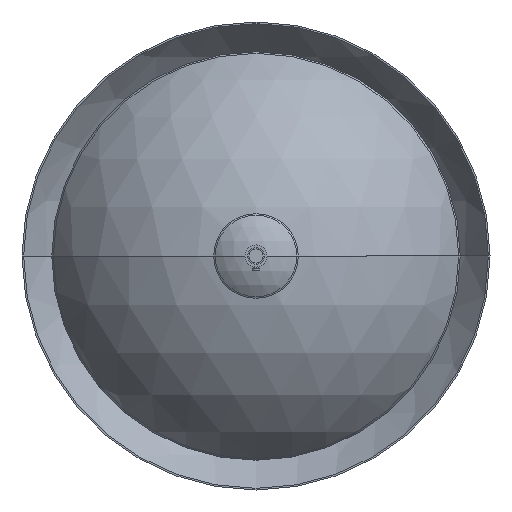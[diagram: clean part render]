
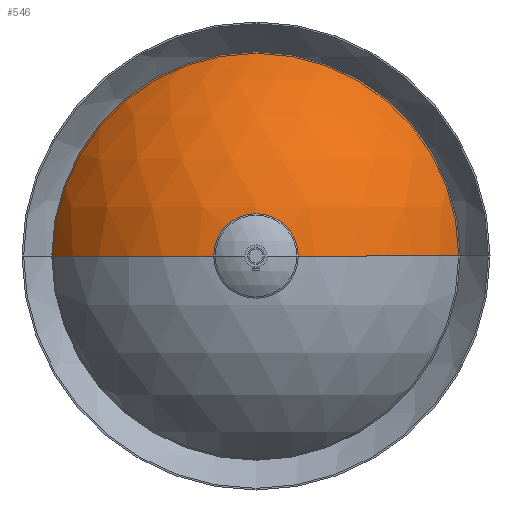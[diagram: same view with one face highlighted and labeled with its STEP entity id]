
A CAD part, front view. The second image highlights one B-rep face of the part: STEP entity #546.
In plain terms, the highlighted spherical face has radius 199.377 mm.
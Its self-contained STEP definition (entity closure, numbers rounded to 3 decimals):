
#67 = ORIENTED_EDGE ( 'NONE', *, *, #1074, .T. ) ;
#112 = CARTESIAN_POINT ( 'NONE',  ( 174.549, -18.069, 0. ) ) ;
#137 = DIRECTION ( 'NONE',  ( 0., 1., 0. ) ) ;
#423 = VERTEX_POINT ( 'NONE', #3428 ) ;
#532 = EDGE_CURVE ( 'NONE', #2109, #3763, #1422, .T. ) ;
#546 = ADVANCED_FACE ( 'NONE', ( #4645 ), #4346, .T. ) ;
#606 = AXIS2_PLACEMENT_3D ( 'NONE', #4404, #4882, #3675 ) ;
#625 = DIRECTION ( 'NONE',  ( 0., 0., 1. ) ) ;
#691 = CARTESIAN_POINT ( 'NONE',  ( 17.89, -120.289, 0. ) ) ;
#734 = AXIS2_PLACEMENT_3D ( 'NONE', #1405, #625, #3561 ) ;
#847 = ORIENTED_EDGE ( 'NONE', *, *, #3391, .F. ) ;
#875 = VERTEX_POINT ( 'NONE', #3006 ) ;
#1074 = EDGE_CURVE ( 'NONE', #3009, #3763, #4242, .T. ) ;
#1237 = ORIENTED_EDGE ( 'NONE', *, *, #532, .F. ) ;
#1281 = CIRCLE ( 'NONE', #3973, 17.89 ) ;
#1287 = CIRCLE ( 'NONE', #606, 199.377 ) ;
#1314 = DIRECTION ( 'NONE',  ( 0., 1., 0. ) ) ;
#1405 = CARTESIAN_POINT ( 'NONE',  ( 0., 78.284, 0. ) ) ;
#1422 = CIRCLE ( 'NONE', #2652, 174.549 ) ;
#1447 = CARTESIAN_POINT ( 'NONE',  ( 0., 78.284, 0. ) ) ;
#1640 = DIRECTION ( 'NONE',  ( 0., 1., 0. ) ) ;
#1729 = EDGE_CURVE ( 'NONE', #423, #875, #4926, .T. ) ;
#1749 = CARTESIAN_POINT ( 'NONE',  ( 0., -18.069, 0. ) ) ;
#1892 = AXIS2_PLACEMENT_3D ( 'NONE', #1447, #3522, #2715 ) ;
#2109 = VERTEX_POINT ( 'NONE', #3587 ) ;
#2603 = AXIS2_PLACEMENT_3D ( 'NONE', #2941, #1640, #4533 ) ;
#2652 = AXIS2_PLACEMENT_3D ( 'NONE', #1749, #137, #3779 ) ;
#2715 = DIRECTION ( 'NONE',  ( 1., 0., 0. ) ) ;
#2941 = CARTESIAN_POINT ( 'NONE',  ( 0., -120.289, 0. ) ) ;
#2974 = DIRECTION ( 'NONE',  ( 0., 0., 1. ) ) ;
#3006 = CARTESIAN_POINT ( 'NONE',  ( 0., -120.289, 17.89 ) ) ;
#3009 = VERTEX_POINT ( 'NONE', #691 ) ;
#3214 = ORIENTED_EDGE ( 'NONE', *, *, #3998, .T. ) ;
#3391 = EDGE_CURVE ( 'NONE', #423, #2109, #1287, .T. ) ;
#3428 = CARTESIAN_POINT ( 'NONE',  ( -17.89, -120.289, 0. ) ) ;
#3522 = DIRECTION ( 'NONE',  ( 0., 0., 1. ) ) ;
#3561 = DIRECTION ( 'NONE',  ( -1., 0., 0. ) ) ;
#3587 = CARTESIAN_POINT ( 'NONE',  ( -174.549, -18.069, 0. ) ) ;
#3675 = DIRECTION ( 'NONE',  ( -1., 0., 0. ) ) ;
#3763 = VERTEX_POINT ( 'NONE', #112 ) ;
#3779 = DIRECTION ( 'NONE',  ( 0., 0., 1. ) ) ;
#3973 = AXIS2_PLACEMENT_3D ( 'NONE', #4697, #1314, #2974 ) ;
#3998 = EDGE_CURVE ( 'NONE', #875, #3009, #1281, .T. ) ;
#4153 = EDGE_LOOP ( 'NONE', ( #5141, #3214, #67, #1237, #847 ) ) ;
#4242 = CIRCLE ( 'NONE', #1892, 199.377 ) ;
#4346 = SPHERICAL_SURFACE ( 'NONE', #734, 199.377 ) ;
#4404 = CARTESIAN_POINT ( 'NONE',  ( 0., 78.284, 0. ) ) ;
#4533 = DIRECTION ( 'NONE',  ( 0., 0., 1. ) ) ;
#4645 = FACE_OUTER_BOUND ( 'NONE', #4153, .T. ) ;
#4697 = CARTESIAN_POINT ( 'NONE',  ( 0., -120.289, 0. ) ) ;
#4882 = DIRECTION ( 'NONE',  ( 0., 0., -1. ) ) ;
#4926 = CIRCLE ( 'NONE', #2603, 17.89 ) ;
#5141 = ORIENTED_EDGE ( 'NONE', *, *, #1729, .T. ) ;
